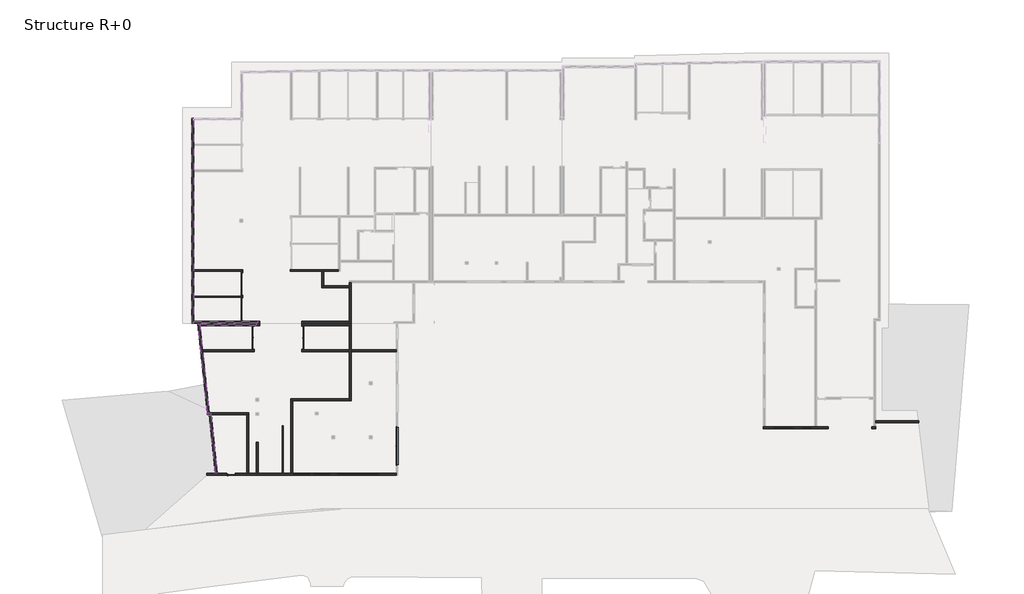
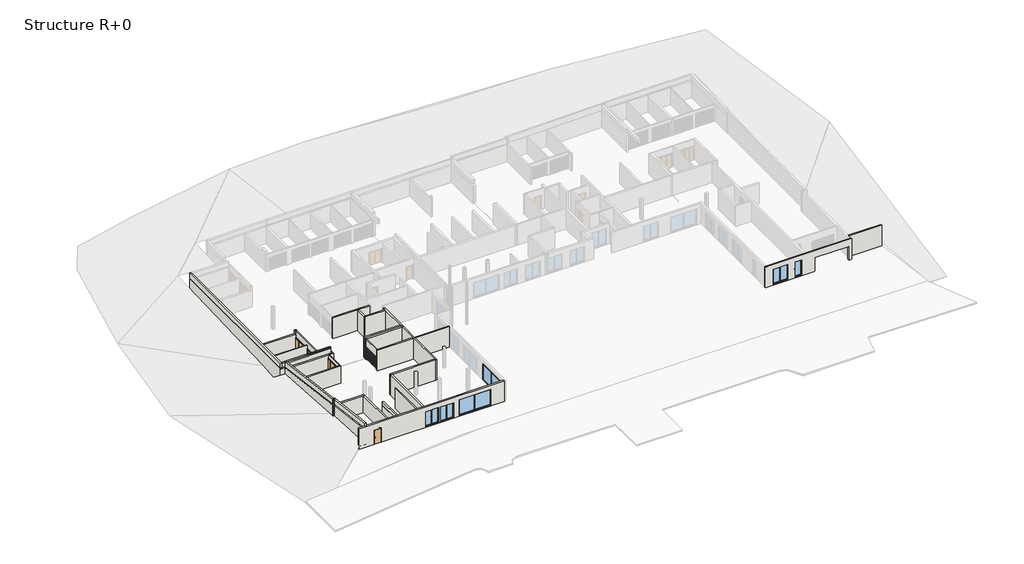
# One storey, part 1 of 5: 34 walls, 6 windows, 5 doors.
"""IFC4 building model written with IfcOpenShell, lengths in millimetres."""

from ifc_helpers import new_model, si_unit, frame, origin, origin_with_axes, place, context, project, spatial, polyline, outline, extrude, faceted_brep, transform, mapped, element, save
from components import door_2_4m_x_2m_ca442cef, hb_simple_930_x_2040_mm_eef520c9, window_0_90m_x_2_25m_cf4a88c4, window_1_80m_x_2_25m_241c93e5, window_2m_x_2_25m_73eb5746, window_4_05m_x_2_35m_2_aa9c86cb, window_4_40m_x_2_35m_32ff79ff

model = new_model("IFC4")

# Units and contexts
model_context = context("Model", 3, world=origin())
ifc_project = project(units=[si_unit("LENGTHUNIT", "METRE", prefix="MILLI")], contexts=[model_context])

# Site, building, storey
site = spatial("IfcSite", under=ifc_project)
building = spatial("IfcBuilding", under=site)
storey = spatial("IfcBuildingStorey", under=building, Name="Structure R+0", Elevation=0.0)

# Doors
placement = place(None, origin())
door_2_4m_x_2m_shape = door_2_4m_x_2m_ca442cef(model_context)
element("IfcDoor", 1, ObjectType="Garage basculante : 2.4m x 2m", at=placement, inside=storey, context=model_context, shape_type="MappedRepresentation", body=[
    mapped(door_2_4m_x_2m_shape, transform((4050.4601588, 14310.0010954, 0.0), x_axis=(0.0, -1.0, 0.0), y_axis=(1.0, 0.0, 0.0), z_axis=(0.0, 0.0, 1.0))),
])
element("IfcDoor", 2, ObjectType="Garage basculante : 2.4m x 2m", at=placement, inside=storey, context=model_context, shape_type="MappedRepresentation", body=[
    mapped(door_2_4m_x_2m_shape, transform((4050.4601588, 11597.9170713, 0.0), x_axis=(0.0, -1.0, 0.0), y_axis=(1.0, 0.0, 0.0), z_axis=(0.0, 0.0, 1.0))),
])
element("IfcDoor", 3, ObjectType="Garage basculante : 2.4m x 2m", at=placement, inside=storey, context=model_context, shape_type="MappedRepresentation", body=[
    mapped(door_2_4m_x_2m_shape, transform((5252.8107901, 8563.0029899, 0.0), x_axis=(0.0, -1.0, 0.0), y_axis=(1.0, 0.0, 0.0), z_axis=(0.0, 0.0, 1.0))),
])
element("IfcDoor", 4, ObjectType="Garage basculante : 2.4m x 2m", at=placement, inside=storey, context=model_context, shape_type="MappedRepresentation", body=[
    mapped(door_2_4m_x_2m_shape, transform((9766.2156554, 8582.0080739, 0.0), x_axis=(0.0, 1.0, 0.0), y_axis=(-1.0, 0.0, 0.0), z_axis=(0.0, 0.0, 1.0))),
])
hb_simple_930_x_2040_mm_shape = hb_simple_930_x_2040_mm_eef520c9(model_context)
element("IfcDoor", 5, ObjectType="HB-Simple : 930 x 2040 mm", at=placement, inside=storey, context=model_context, shape_type="MappedRepresentation", body=[
    mapped(hb_simple_930_x_2040_mm_shape, transform((2482.6863548, -6005.1620119, 0.0), x_axis=(1.0, 0.0, 0.0), y_axis=(0.0, 1.0, 0.0), z_axis=(0.0, 0.0, 1.0))),
])

# Walls
element("IfcWall", 6, ObjectType="Voile BA 20 + etancheite 1 + 2 enduit", at=placement, inside=storey, context=model_context, shape_type="Brep", body=[
    faceted_brep([(174.1388085, 528.6115605, 2710.0), (-806.1527327, 9855.4625547, 2710.0), (-828.2246221, 10065.4625547, 2710.0), (-828.2246221, 10065.4625547, 3330.0), (-828.2246221, 10065.4625547, 3410.0), (174.1388085, 528.6115605, 3410.0), (-37.0179302, 528.6115605, 2710.0), (-37.0179302, 528.6115605, 3410.0), (-1039.3813608, 10065.4625547, 3410.0), (-1039.3813608, 10065.4625547, 2710.0)], [[[0, 1, 2, 3, 4, 5]], [[6, 7, 8, 9]], [[2, 1, 0, 6, 9]], [[5, 4, 8, 7]], [[0, 5, 7, 6]], [[4, 3, 2, 9, 8]]]),
])
element("IfcWall", 7, ObjectType="Voile BA 20 + etancheite 1 + 2 enduit", at=placement, inside=storey, context=model_context, shape_type="Brep", body=[
    faceted_brep([(-14.9460408, 318.6115605, 2710.0), (164.2799074, 318.6115605, 2710.0), (375.4398241, 318.6115605, 2710.0), (375.4398241, 318.6115605, 3410.0), (164.2799074, 318.6115605, 3410.0), (-14.9460408, 318.6115605, 3410.0), (-37.0179302, 528.6115605, 2710.0), (-37.0179302, 528.6115605, 3410.0), (174.1388085, 528.6115605, 3410.0), (353.337552, 528.6115605, 3410.0), (353.337552, 528.6115605, 2710.0), (174.1388085, 528.6115605, 2710.0)], [[[0, 1, 2, 3, 4, 5]], [[6, 7, 8, 9, 10, 11]], [[2, 1, 0, 6, 11, 10]], [[5, 4, 3, 9, 8, 7]], [[0, 5, 7, 6]], [[3, 2, 10, 9]]]),
])
element("IfcWall", 8, ObjectType="Voile BA 20 + etancheite 1 + 2 enduit", at=placement, inside=storey, context=model_context, shape_type="Brep", body=[
    faceted_brep([(-1473.0020232, 10125.465256, 2710.0), (-1473.0020232, 10335.465256, 2710.0), (-1473.0020232, 31818.092309, 2710.0), (-1473.0020232, 32028.092309, 2710.0), (-1473.0020232, 32028.092309, 3410.0), (-1473.0020232, 31818.092309, 3410.0), (-1473.0020232, 10125.465256, 3410.0), (-1473.0020232, 10125.465256, 3330.0), (-1683.0020232, 10125.465256, 2710.0), (-1683.0020232, 10125.465256, 3410.0), (-1683.0020232, 32028.092309, 3410.0), (-1683.0020232, 32028.092309, 2710.0)], [[[0, 1, 2, 3, 4, 5, 6, 7]], [[8, 9, 10, 11]], [[3, 2, 1, 0, 8, 11]], [[6, 5, 4, 10, 9]], [[4, 3, 11, 10]], [[0, 7, 6, 9, 8]]]),
])
element("IfcWall", 9, ObjectType="Voile BA 20 + etancheite 1 + 0 enduit", at=placement, inside=storey, context=model_context, shape_type="Brep", body=[
    faceted_brep([(-806.1527327, 9855.4625547, 2710.0), (5184.2512184, 9855.4625547, 2710.0), (5184.2512184, 9855.4625547, 2720.0), (5184.2512184, 9855.4625547, 3030.0), (5184.2512184, 9855.4625547, 3320.0), (5184.2512184, 9855.4625547, 3330.0), (-806.1527327, 9855.4625547, 3330.0), (-828.2246221, 10065.4625547, 2710.0), (-828.2246221, 10065.4625547, 3330.0), (5184.2512184, 10065.4625547, 3330.0), (5184.2512184, 10065.4625547, 2710.0)], [[[0, 1, 2, 3, 4, 5, 6]], [[7, 8, 9, 10]], [[1, 0, 7, 10]], [[6, 5, 9, 8]], [[5, 4, 3, 2, 1, 10, 9]], [[0, 6, 8, 7]]]),
])
element("IfcWall", 10, ObjectType="Voile BA 20 + etancheite 1 + 0 enduit", at=placement, inside=storey, context=model_context, shape_type="Brep", body=[
    faceted_brep([(5329.893812, 10335.465256, 2710.0), (-1473.0020232, 10335.465256, 2710.0), (-1473.0020232, 10335.465256, 3330.0), (5329.893812, 10335.465256, 3330.0), (5329.893812, 10335.465256, 3320.0), (5329.893812, 10335.465256, 2720.0), (5329.893812, 10125.465256, 2710.0), (5329.893812, 10125.465256, 3330.0), (-1473.0020232, 10125.465256, 3330.0), (-1473.0020232, 10125.465256, 2710.0)], [[[0, 1, 2, 3, 4, 5]], [[6, 7, 8, 9]], [[1, 0, 6, 9]], [[3, 2, 8, 7]], [[0, 5, 4, 3, 7, 6]], [[2, 1, 9, 8]]]),
])
element("IfcWall", 11, ObjectType="Voile BA 20 + etancheite 1 + 2 enduit", at=placement, inside=storey, context=model_context, shape_type="SweptSolid", body=[
    extrude(outline(polyline([(375.4398241, 318.6115605), (1030.4852393, -5905.1620119), (819.3253225, -5905.1620119), (164.2799074, 318.6115605), (375.4398241, 318.6115605)])), frame((0.0, 0.0, 2710.0), z_axis=(0.0, 0.0, 1.0), x_axis=(1.0, 0.0, 0.0)), (0.0, 0.0, 1.0), 700.0),
])
element("IfcWall", 12, ObjectType="Ext. Voile BA 20", at=placement, inside=storey, context=model_context, shape_type="Brep", body=[
    faceted_brep([(-84.079262, -5905.1620119, 0.0), (-84.079262, -5905.1620119, 3030.0), (5184.2512184, -5905.1620119, 3030.0), (5382.6096912, -5905.1620119, 3030.0), (7979.1229661, -5905.1620119, 3030.0), (8079.1229661, -5905.1620119, 3030.0), (8879.0548308, -5905.1620119, 3030.0), (9079.0548308, -5905.1620119, 3030.0), (20115.920738, -5905.1620119, 3030.0), (20115.920738, -5905.1620119, 0.0), (9079.0548308, -5905.1620119, 0.0), (8879.0548308, -5905.1620119, 0.0), (8079.1229661, -5905.1620119, 0.0), (7979.1229661, -5905.1620119, 0.0), (5382.6096912, -5905.1620119, 0.0), (5182.6096912, -5905.1620119, 0.0), (4382.6863548, -5905.1620119, 0.0), (4182.6863548, -5905.1620119, 0.0), (2929.6863548, -5905.1620119, 0.0), (2929.6863548, -5905.1620119, 2022.0), (2035.6863548, -5905.1620119, 2022.0), (2035.6863548, -5905.1620119, 0.0), (1020.3287499, -5905.1620119, 0.0), (819.227094, -5905.1620119, 0.0), (9109.0548308, -5905.1620119, 35.0), (11009.0548308, -5905.1620119, 35.0), (11009.0548308, -5905.1620119, 2335.0), (9109.0548308, -5905.1620119, 2335.0), (11209.0548308, -5905.1620119, 35.0), (13109.0548308, -5905.1620119, 35.0), (13109.0548308, -5905.1620119, 2335.0), (11209.0548308, -5905.1620119, 2335.0), (13809.0548308, -5905.1620119, 35.0), (18309.0548308, -5905.1620119, 35.0), (18309.0548308, -5905.1620119, 2435.0), (13809.0548308, -5905.1620119, 2435.0), (-84.079262, -6105.1620119, 3030.0), (-84.079262, -6105.1620119, 0.0), (2016.1863548, -6105.1620119, 0.0), (2016.1863548, -6105.1620119, 2041.5), (2949.1863548, -6105.1620119, 2041.5), (2949.1863548, -6105.1620119, 0.0), (20115.920738, -6105.1620119, 0.0), (20115.920738, -6105.1620119, 3030.0), (10959.0548308, -6105.1620119, 2285.0), (10959.0548308, -6105.1620119, 22.3874918), (9159.0548308, -6105.1620119, 22.3874918), (9159.0548308, -6105.1620119, 2285.0), (13059.0548308, -6105.1620119, 2285.0), (13059.0548308, -6105.1620119, 22.3874918), (11259.0548308, -6105.1620119, 22.3874918), (11259.0548308, -6105.1620119, 2285.0), (18259.0548308, -6105.1620119, 2385.0), (18259.0548308, -6105.1620119, 22.3874918), (13859.0548308, -6105.1620119, 22.3874918), (13859.0548308, -6105.1620119, 2385.0), (2035.6863548, -5925.1620119, 0.0), (1973.1863548, -5925.1620119, 0.0), (1987.1863548, -5939.1620119, 0.0), (1999.1863548, -5927.1620119, 0.0), (2016.1863548, -5927.1620119, 0.0), (2016.1863548, -5962.1620119, 0.0), (2034.1863548, -5962.1620119, 0.0), (2034.1863548, -6083.1620119, 0.0), (2016.1863548, -6083.1620119, 0.0), (2949.1863548, -6083.1620119, 0.0), (2931.1863548, -6083.1620119, 0.0), (2931.1863548, -5962.1620119, 0.0), (2949.1863548, -5962.1620119, 0.0), (2949.1863548, -5927.1620119, 0.0), (2966.1863548, -5927.1620119, 0.0), (2978.1863548, -5939.1620119, 0.0), (2992.1863548, -5925.1620119, 0.0), (2929.6863548, -5925.1620119, 0.0), (2035.6863548, -5925.1620119, 2022.0), (2929.6863548, -5925.1620119, 2022.0), (2978.1863548, -5939.1620119, 2070.5), (2992.1863548, -5925.1620119, 2084.5), (2966.1863548, -5927.1620119, 2058.5), (2949.1863548, -5927.1620119, 2041.5), (2016.1863548, -5927.1620119, 2041.5), (1999.1863548, -5927.1620119, 2058.5), (2949.1863548, -5962.1620119, 2041.5), (2931.1863548, -5962.1620119, 2023.5), (2034.1863548, -5962.1620119, 2023.5), (2016.1863548, -5962.1620119, 2041.5), (2931.1863548, -6083.1620119, 2023.5), (2949.1863548, -6083.1620119, 2041.5), (2016.1863548, -6083.1620119, 2041.5), (2034.1863548, -6083.1620119, 2023.5), (1973.1863548, -5925.1620119, 2084.5), (1987.1863548, -5939.1620119, 2070.5), (10959.0548308, -5985.1620119, 35.0), (10959.0548308, -6005.1620119, 2285.0), (10959.0548308, -6005.1620119, 35.0), (9159.0548308, -5985.1620119, 35.0), (9159.0548308, -6005.1620119, 35.0), (9159.0548308, -6005.1620119, 2285.0), (10969.0548308, -6005.1620119, 35.0), (10969.0548308, -5955.1620119, 35.0), (11009.0548308, -5955.1620119, 35.0), (9109.0548308, -5955.1620119, 35.0), (9149.0548308, -5955.1620119, 35.0), (9149.0548308, -6005.1620119, 35.0), (11009.0548308, -5955.1620119, 2335.0), (10969.0548308, -5955.1620119, 2295.0), (9149.0548308, -5955.1620119, 2295.0), (9109.0548308, -5955.1620119, 2335.0), (10969.0548308, -6005.1620119, 2295.0), (9149.0548308, -6005.1620119, 2295.0), (13059.0548308, -5985.1620119, 35.0), (13059.0548308, -6005.1620119, 2285.0), (13059.0548308, -6005.1620119, 35.0), (11259.0548308, -5985.1620119, 35.0), (11259.0548308, -6005.1620119, 35.0), (11259.0548308, -6005.1620119, 2285.0), (13069.0548308, -6005.1620119, 35.0), (13069.0548308, -5955.1620119, 35.0), (13109.0548308, -5955.1620119, 35.0), (11209.0548308, -5955.1620119, 35.0), (11249.0548308, -5955.1620119, 35.0), (11249.0548308, -6005.1620119, 35.0), (13109.0548308, -5955.1620119, 2335.0), (13069.0548308, -5955.1620119, 2295.0), (11249.0548308, -5955.1620119, 2295.0), (11209.0548308, -5955.1620119, 2335.0), (13069.0548308, -6005.1620119, 2295.0), (11249.0548308, -6005.1620119, 2295.0), (18259.0548308, -5985.1620119, 35.0), (18259.0548308, -6005.1620119, 2385.0), (18259.0548308, -6005.1620119, 35.0), (13859.0548308, -5985.1620119, 35.0), (13859.0548308, -6005.1620119, 35.0), (13859.0548308, -6005.1620119, 2385.0), (18269.0548308, -6005.1620119, 35.0), (18269.0548308, -5955.1620119, 35.0), (18309.0548308, -5955.1620119, 35.0), (13809.0548308, -5955.1620119, 35.0), (13849.0548308, -5955.1620119, 35.0), (13849.0548308, -6005.1620119, 35.0), (18309.0548308, -5955.1620119, 2435.0), (18269.0548308, -5955.1620119, 2395.0), (13849.0548308, -5955.1620119, 2395.0), (13809.0548308, -5955.1620119, 2435.0), (18269.0548308, -6005.1620119, 2395.0), (13849.0548308, -6005.1620119, 2395.0)], [[[0, 1, 2, 3, 4, 5, 6, 7, 8, 9, 10, 11, 12, 13, 14, 15, 16, 17, 18, 19, 20, 21, 22, 23], [24, 25, 26, 27], [28, 29, 30, 31], [32, 33, 34, 35]], [[36, 37, 38, 39, 40, 41, 42, 43], [44, 45, 46, 47], [48, 49, 50, 51], [52, 53, 54, 55]], [[37, 0, 23, 22, 21, 56, 57, 58, 59, 60, 61, 62, 63, 64, 38]], [[9, 42, 41, 65, 66, 67, 68, 69, 70, 71, 72, 73, 18, 17, 16, 15, 14, 13, 12, 11, 10]], [[1, 0, 37, 36]], [[8, 7, 6, 5, 4, 3, 2, 1, 36, 43]], [[9, 8, 43, 42]], [[74, 56, 21, 20]], [[75, 74, 20, 19]], [[73, 75, 19, 18]], [[71, 76, 77, 72]], [[76, 71, 70, 78]], [[78, 70, 69, 79, 80, 60, 59, 81]], [[79, 69, 68, 82]], [[82, 68, 67, 83, 84, 62, 61, 85]], [[83, 67, 66, 86]], [[86, 66, 65, 87, 88, 64, 63, 89]], [[87, 65, 41, 40]], [[56, 74, 75, 73, 72, 77, 90, 57]], [[77, 76, 91, 90]], [[76, 78, 81, 91]], [[80, 79, 82, 85]], [[84, 83, 86, 89]], [[88, 87, 40, 39]], [[57, 90, 91, 58]], [[81, 59, 58, 91]], [[60, 80, 85, 61]], [[62, 84, 89, 63]], [[64, 88, 39, 38]], [[92, 45, 44, 93, 94]], [[46, 95, 96, 97, 47]], [[92, 95, 46, 45]], [[44, 47, 97, 93]], [[95, 92, 94, 98, 99, 100, 25, 24, 101, 102, 103, 96]], [[25, 100, 104, 26]], [[100, 99, 105, 106, 102, 101, 107, 104]], [[99, 98, 108, 105]], [[98, 94, 93, 97, 96, 103, 109, 108]], [[26, 104, 107, 27]], [[106, 105, 108, 109]], [[107, 101, 24, 27]], [[102, 106, 109, 103]], [[110, 49, 48, 111, 112]], [[50, 113, 114, 115, 51]], [[110, 113, 50, 49]], [[48, 51, 115, 111]], [[113, 110, 112, 116, 117, 118, 29, 28, 119, 120, 121, 114]], [[29, 118, 122, 30]], [[118, 117, 123, 124, 120, 119, 125, 122]], [[117, 116, 126, 123]], [[116, 112, 111, 115, 114, 121, 127, 126]], [[30, 122, 125, 31]], [[124, 123, 126, 127]], [[125, 119, 28, 31]], [[120, 124, 127, 121]], [[128, 53, 52, 129, 130]], [[54, 131, 132, 133, 55]], [[128, 131, 54, 53]], [[52, 55, 133, 129]], [[131, 128, 130, 134, 135, 136, 33, 32, 137, 138, 139, 132]], [[33, 136, 140, 34]], [[136, 135, 141, 142, 138, 137, 143, 140]], [[135, 134, 144, 141]], [[134, 130, 129, 133, 132, 139, 145, 144]], [[34, 140, 143, 35]], [[142, 141, 144, 145]], [[143, 137, 32, 35]], [[138, 142, 145, 139]]]),
])
element("IfcWall", 13, ObjectType="Ext. Voile BA 20", at=placement, inside=storey, context=model_context, shape_type="SweptSolid", body=[
    extrude(outline(polyline([(363.8161837, 341.1378118), (1020.3287499, -5905.1620119), (819.227094, -5905.1620119), (162.7145278, 341.1378118), (363.8161837, 341.1378118)])), origin_with_axes(), (0.0, 0.0, 1.0), 2510.0),
])
element("IfcWall", 14, ObjectType="Ext. Voile BA 20", at=placement, inside=storey, context=model_context, shape_type="Brep", body=[
    faceted_brep([(162.7671637, 541.1378118, 0.0), (-523.2918803, 7068.5535934, 0.0), (-544.3127274, 7268.5535934, 0.0), (-817.2588578, 9865.4625547, 0.0), (-838.2797049, 10065.4625547, 0.0), (-838.2797049, 10065.4625547, 2510.0), (-817.2588578, 9865.4625547, 2510.0), (-544.3127274, 7268.5535934, 2510.0), (-523.2918803, 7068.5535934, 2510.0), (162.7671637, 541.1378118, 2510.0), (-38.3344923, 541.1378118, 0.0), (-38.3344923, 541.1378118, 2510.0), (-1039.3813608, 10065.4625547, 2510.0), (-1039.3813608, 10065.4625547, 0.0)], [[[0, 1, 2, 3, 4, 5, 6, 7, 8, 9]], [[10, 11, 12, 13]], [[0, 9, 11, 10]], [[5, 4, 13, 12]], [[4, 3, 2, 1, 0, 10, 13]], [[9, 8, 7, 6, 5, 12, 11]]]),
])
element("IfcWall", 15, ObjectType="Ext. Voile BA 20", at=placement, inside=storey, context=model_context, shape_type="Brep", body=[
    faceted_brep([(-1483.0020232, 10325.4652425, 0.0), (-1483.0020232, 12900.3689001, 0.0), (-1483.0020232, 13000.3689001, 0.0), (-1483.0020232, 15649.6332908, 0.0), (-1483.0020232, 15849.6332908, 0.0), (-1483.0020232, 26308.0923089, 0.0), (-1483.0020232, 26508.0923089, 0.0), (-1483.0020232, 29128.092309, 0.0), (-1483.0020232, 29228.092309, 0.0), (-1483.0020232, 31828.092309, 0.0), (-1483.0020232, 32028.092309, 0.0), (-1483.0020232, 32028.092309, 2510.0), (-1483.0020232, 31828.092309, 2510.0), (-1483.0020232, 29228.092309, 2510.0), (-1483.0020232, 29128.092309, 2510.0), (-1483.0020232, 26508.0923089, 2510.0), (-1483.0020232, 26308.0923089, 2510.0), (-1483.0020232, 15849.6332908, 2510.0), (-1483.0020232, 15649.6332908, 2510.0), (-1483.0020232, 13000.3689001, 2510.0), (-1483.0020232, 12900.3689001, 2510.0), (-1483.0020232, 10325.4652425, 2510.0), (-1683.0020232, 10325.4652425, 0.0), (-1683.0020232, 10325.4652425, 2510.0), (-1683.0020232, 32028.092309, 2510.0), (-1683.0020232, 32028.092309, 0.0)], [[[0, 1, 2, 3, 4, 5, 6, 7, 8, 9, 10, 11, 12, 13, 14, 15, 16, 17, 18, 19, 20, 21]], [[22, 23, 24, 25]], [[0, 21, 23, 22]], [[11, 10, 25, 24]], [[10, 9, 8, 7, 6, 5, 4, 3, 2, 1, 0, 22, 25]], [[21, 20, 19, 18, 17, 16, 15, 14, 13, 12, 11, 24, 23]]]),
])
element("IfcWall", 16, ObjectType="Ext. Voile BA 20", at=placement, inside=storey, context=model_context, shape_type="Brep", body=[
    faceted_brep([(15109.3203129, 14117.7151113, 0.0), (12409.3203129, 14117.7151113, 0.0), (12209.3203129, 14117.7151113, 0.0), (12209.3203129, 14117.7151113, 3030.0), (12409.3203129, 14117.7151113, 3030.0), (15109.3203129, 14117.7151113, 3030.0), (15109.3203129, 13917.7151113, 0.0), (15109.3203129, 13917.7151113, 3030.0), (12209.3203129, 13917.7151113, 3030.0), (12209.3203129, 13917.7151113, 0.0)], [[[0, 1, 2, 3, 4, 5]], [[6, 7, 8, 9]], [[2, 1, 0, 6, 9]], [[0, 5, 7, 6]], [[3, 2, 9, 8]], [[5, 4, 3, 8, 7]]]),
])
element("IfcWall", 17, ObjectType="Ext. Voile BA 20", at=placement, inside=storey, context=model_context, shape_type="SweptSolid", body=[
    extrude(outline(polyline([(12409.3203129, 15649.6332906), (12409.3203129, 14117.7151113), (12209.3203129, 14117.7151113), (12209.3203129, 15649.6332906), (12409.3203129, 15649.6332906)])), origin_with_axes(), (0.0, 0.0, 1.0), 3030.0),
])
element("IfcWall", 18, ObjectType="Ext. Voile BA 20", at=placement, inside=storey, context=model_context, shape_type="Brep", body=[
    faceted_brep([(13964.9548931, 15849.6332906, 0.0), (8901.4301413, 15849.6332906, 0.0), (8801.4301413, 15849.6332906, 0.0), (8801.4301413, 15849.6332906, 3030.0), (8901.4301413, 15849.6332906, 3030.0), (13964.9548931, 15849.6332906, 3030.0), (13964.9548931, 15649.6332906, 0.0), (13964.9548931, 15649.6332906, 3030.0), (12409.3203129, 15649.6332906, 3030.0), (12209.3203129, 15649.6332906, 3030.0), (8801.4301413, 15649.6332906, 3030.0), (8801.4301413, 15649.6332906, 0.0), (12209.3203129, 15649.6332906, 0.0), (12409.3203129, 15649.6332906, 0.0)], [[[0, 1, 2, 3, 4, 5]], [[6, 7, 8, 9, 10, 11, 12, 13]], [[2, 1, 0, 6, 13, 12, 11]], [[0, 5, 7, 6]], [[3, 2, 11, 10]], [[5, 4, 3, 10, 9, 8, 7]]]),
])
element("IfcWall", 19, ObjectType="Ext. Voile BA 20", at=placement, inside=storey, context=model_context, shape_type="Brep", body=[
    faceted_brep([(15109.3203129, 2054.6479064, 0.0), (8879.0548308, 2054.6479064, 0.0), (8879.0548308, 2054.6479064, 3030.0), (15109.3203129, 2054.6479064, 3030.0), (15109.3203129, 1854.6479064, 0.0), (15109.3203129, 1854.6479064, 3030.0), (9079.0548308, 1854.6479064, 3030.0), (8879.0548308, 1854.6479064, 3030.0), (8879.0548308, 1854.6479064, 0.0), (9079.0548308, 1854.6479064, 0.0)], [[[0, 1, 2, 3]], [[4, 5, 6, 7, 8, 9]], [[1, 0, 4, 9, 8]], [[0, 3, 5, 4]], [[2, 1, 8, 7]], [[3, 2, 7, 6, 5]]]),
])
element("IfcWall", 20, ObjectType="Ext. Voile BA 20", at=placement, inside=storey, context=model_context, shape_type="SweptSolid", body=[
    extrude(outline(polyline([(8879.0548308, -5905.1620119), (8879.0548308, 1854.6479064), (9079.0548308, 1854.6479064), (9079.0548308, -5905.1620119), (8879.0548308, -5905.1620119)])), origin_with_axes(), (0.0, 0.0, 1.0), 3030.0),
])
element("IfcWall", 21, ObjectType="Ext. Voile BA 20", at=placement, inside=storey, context=model_context, shape_type="SweptSolid", body=[
    extrude(outline(polyline([(0.0, 5382.6096912), (3030.0, 5382.6096912), (3030.0, 5184.2512184), (2510.0, 5184.2512184), (2510.0, 5182.6096912), (0.0, 5182.6096912), (0.0, 5382.6096912)])), frame((0.0, -5905.1620119, 0.0), z_axis=(0.0, 1.0, 0.0), x_axis=(0.0, 0.0, 1.0)), (0.0, 0.0, 1.0), 3319.5138564),
])
element("IfcWall", 22, ObjectType="Ext. Voile BA 20 + 2 enduit", at=placement, inside=storey, context=model_context, shape_type="Brep", body=[
    faceted_brep([(71327.0236897, -947.3118451, 0.0), (71127.0236897, -947.3118451, 0.0), (70909.617162, -947.3118451, 0.0), (70909.617162, -947.3118451, 2060.0), (66235.3680103, -947.3118451, 2060.0), (66235.3680103, -947.3118451, 0.0), (65012.3933514, -947.3118451, 0.0), (64812.3933514, -947.3118451, 0.0), (59542.9059955, -947.3118451, 0.0), (59342.9059955, -947.3118451, 0.0), (59342.9059955, -947.3118451, 3030.0), (59353.9486146, -947.3118451, 3030.0), (59542.9059955, -947.3118451, 3030.0), (64812.3933514, -947.3118451, 3030.0), (65012.3933514, -947.3118451, 3030.0), (71127.0236897, -947.3118451, 3030.0), (71317.0236897, -947.3118451, 3030.0), (71327.0236897, -947.3118451, 3030.0), (60406.1712689, -947.3118451, 70.0), (62506.1712689, -947.3118451, 70.0), (62506.1712689, -947.3118451, 2370.0), (60406.1712689, -947.3118451, 2370.0), (63424.5225082, -947.3118451, 70.0), (64424.5225082, -947.3118451, 70.0), (64424.5225082, -947.3118451, 2370.0), (63424.5225082, -947.3118451, 2370.0), (71327.0236897, -1147.3118451, 0.0), (71327.0236897, -1147.3118451, 3030.0), (71317.0236897, -1147.3118451, 3030.0), (59353.9486146, -1147.3118451, 3030.0), (59342.9059955, -1147.3118451, 3030.0), (59342.9059955, -1147.3118451, 0.0), (66235.3680103, -1147.3118451, 0.0), (66235.3680103, -1147.3118451, 2060.0), (70909.617162, -1147.3118451, 2060.0), (70909.617162, -1147.3118451, 0.0), (60456.1712689, -1147.3118451, 57.3874918), (60456.1712689, -1147.3118451, 2320.0), (62456.1712689, -1147.3118451, 2320.0), (62456.1712689, -1147.3118451, 57.3874918), (63474.5225082, -1147.3118451, 57.3874918), (63474.5225082, -1147.3118451, 2320.0), (64374.5225082, -1147.3118451, 2320.0), (64374.5225082, -1147.3118451, 57.3874918), (71327.0236897, -1137.3140034, 3030.0), (59342.9059955, -1137.3140034, 3030.0), (60456.1712689, -1027.3118451, 70.0), (60456.1712689, -1047.3118451, 70.0), (60456.1712689, -1047.3118451, 2320.0), (62456.1712689, -1047.3118451, 2320.0), (62456.1712689, -1047.3118451, 70.0), (62456.1712689, -1027.3118451, 70.0), (62466.1712689, -1047.3118451, 70.0), (62466.1712689, -997.3118451, 70.0), (62506.1712689, -997.3118451, 70.0), (60406.1712689, -997.3118451, 70.0), (60446.1712689, -997.3118451, 70.0), (60446.1712689, -1047.3118451, 70.0), (60406.1712689, -997.3118451, 2370.0), (62506.1712689, -997.3118451, 2370.0), (62466.1712689, -997.3118451, 2330.0), (60446.1712689, -997.3118451, 2330.0), (60446.1712689, -1047.3118451, 2330.0), (62466.1712689, -1047.3118451, 2330.0), (63474.5225082, -1027.3118451, 70.0), (63474.5225082, -1047.3118451, 70.0), (63474.5225082, -1047.3118451, 2320.0), (64374.5225082, -1047.3118451, 2320.0), (64374.5225082, -1047.3118451, 70.0), (64374.5225082, -1027.3118451, 70.0), (64384.5225082, -1047.3118451, 70.0), (64384.5225082, -997.3118451, 70.0), (64424.5225082, -997.3118451, 70.0), (63424.5225082, -997.3118451, 70.0), (63464.5225082, -997.3118451, 70.0), (63464.5225082, -1047.3118451, 70.0), (63424.5225082, -997.3118451, 2370.0), (64424.5225082, -997.3118451, 2370.0), (64384.5225082, -997.3118451, 2330.0), (63464.5225082, -997.3118451, 2330.0), (63464.5225082, -1047.3118451, 2330.0), (64384.5225082, -1047.3118451, 2330.0), (71317.0236897, -1137.3140034, 3030.0), (59353.9486146, -1137.3140034, 3030.0)], [[[0, 1, 2, 3, 4, 5, 6, 7, 8, 9, 10, 11, 12, 13, 14, 15, 16, 17], [18, 19, 20, 21], [22, 23, 24, 25]], [[26, 27, 28, 29, 30, 31, 32, 33, 34, 35], [36, 37, 38, 39], [40, 41, 42, 43]], [[0, 17, 44, 27, 26]], [[10, 9, 31, 30, 45]], [[9, 8, 7, 6, 5, 32, 31]], [[2, 1, 0, 26, 35]], [[3, 2, 35, 34]], [[4, 3, 34, 33]], [[5, 4, 33, 32]], [[46, 47, 48, 37, 36]], [[39, 38, 49, 50, 51]], [[46, 36, 39, 51]], [[37, 48, 49, 38]], [[51, 50, 52, 53, 54, 19, 18, 55, 56, 57, 47, 46]], [[18, 21, 58, 55]], [[55, 58, 59, 54, 53, 60, 61, 56]], [[56, 61, 62, 57]], [[57, 62, 63, 52, 50, 49, 48, 47]], [[21, 20, 59, 58]], [[60, 63, 62, 61]], [[59, 20, 19, 54]], [[53, 52, 63, 60]], [[64, 65, 66, 41, 40]], [[43, 42, 67, 68, 69]], [[64, 40, 43, 69]], [[41, 66, 67, 42]], [[69, 68, 70, 71, 72, 23, 22, 73, 74, 75, 65, 64]], [[22, 25, 76, 73]], [[73, 76, 77, 72, 71, 78, 79, 74]], [[74, 79, 80, 75]], [[75, 80, 81, 70, 68, 67, 66, 65]], [[25, 24, 77, 76]], [[78, 81, 80, 79]], [[77, 24, 23, 72]], [[71, 70, 81, 78]], [[17, 16, 82, 44]], [[82, 28, 27, 44]], [[11, 10, 45, 83]], [[29, 28, 82, 83]], [[45, 30, 29, 83]], [[16, 15, 14, 13, 12, 11, 83, 82]]]),
])
element("IfcWall", 23, ObjectType="Ext. Voile BA 20 + 2 enduit", at=placement, inside=storey, context=model_context, shape_type="SweptSolid", body=[
    extrude(outline(polyline([(75901.2824686, -508.991972), (71327.0236897, -508.991972), (71327.0236897, -308.991972), (75901.2824686, -308.991972), (75901.2824686, -508.991972)])), origin_with_axes(), (0.0, 0.0, 1.0), 3030.0),
])
element("IfcWall", 24, ObjectType="Int. Parpaing 100 mm", at=placement, inside=storey, context=model_context, shape_type="SweptSolid", body=[
    extrude(outline(polyline([(0.0, -1483.0020232), (0.0, 3656.907833), (2510.0, 3656.907833), (2510.0, 3536.9058449), (2510.0, -1483.0020232), (0.0, -1483.0020232)])), frame((0.0, 12900.3689001, 0.0), z_axis=(0.0, 1.0, 0.0), x_axis=(0.0, 0.0, 1.0)), (0.0, 0.0, 1.0), 100.0),
])
element("IfcWall", 25, ObjectType="Int. Parpaing 100 mm", at=placement, inside=storey, context=model_context, shape_type="Brep", body=[
    faceted_brep([(3656.907833, 10335.465256, 3000.0), (3656.907833, 15649.6332908, 3000.0), (3656.907833, 15649.6332908, 0.0), (3656.907833, 15540.0010954, 0.0), (3656.907833, 15540.0010954, 2015.0), (3656.907833, 13110.0010954, 2015.0), (3656.907833, 13110.0010954, 0.0), (3656.907833, 13000.3689001, 0.0), (3656.907833, 12900.3689001, 0.0), (3656.907833, 12827.9170713, 0.0), (3656.907833, 12827.9170713, 2015.0), (3656.907833, 10397.9170713, 2015.0), (3656.907833, 10397.9170713, 0.0), (3656.907833, 10325.4652425, 0.0), (3656.907833, 10325.4652425, 2710.0), (3656.907833, 10335.465256, 2710.0), (3756.907833, 15649.6332908, 3000.0), (3756.907833, 10335.465256, 3000.0), (3756.907833, 10335.465256, 2710.0), (3756.907833, 10325.4652425, 2710.0), (3756.907833, 10325.4652425, 0.0), (3756.907833, 10397.9170713, 0.0), (3756.907833, 10397.9170713, 2015.0), (3756.907833, 12827.9170713, 2015.0), (3756.907833, 12827.9170713, 0.0), (3756.907833, 13110.0010954, 0.0), (3756.907833, 13110.0010954, 2015.0), (3756.907833, 15540.0010954, 2015.0), (3756.907833, 15540.0010954, 0.0), (3756.907833, 15649.6332908, 0.0)], [[[0, 1, 2, 3, 4, 5, 6, 7, 8, 9, 10, 11, 12, 13, 14, 15]], [[16, 17, 18, 19, 20, 21, 22, 23, 24, 25, 26, 27, 28, 29]], [[2, 29, 28, 3]], [[20, 13, 12, 21]], [[6, 25, 24, 9, 8, 7]], [[1, 0, 17, 16]], [[2, 1, 16, 29]], [[26, 5, 4, 27]], [[27, 4, 3, 28]], [[5, 26, 25, 6]], [[22, 11, 10, 23]], [[23, 10, 9, 24]], [[11, 22, 21, 12]], [[15, 14, 19, 18]], [[13, 20, 19, 14]], [[17, 0, 15, 18]]]),
])
element("IfcWall", 26, ObjectType="Int. Parpaing 100 mm", at=placement, inside=storey, context=model_context, shape_type="SweptSolid", body=[
    extrude(outline(polyline([(7268.5535934, 0.0), (7268.5535934, 2510.0), (9865.4625547, 2510.0), (9865.4625547, 0.0), (9793.0029899, 0.0), (9793.0029899, 2015.0), (7363.0029899, 2015.0), (7363.0029899, 0.0), (7268.5535934, 0.0)])), frame((4859.2584643, 0.0, 0.0), z_axis=(1.0, 0.0, 0.0), x_axis=(0.0, 1.0, 0.0)), (0.0, 0.0, 1.0), 100.0),
])
element("IfcWall", 27, ObjectType="Int. Parpaing 100 mm", at=placement, inside=storey, context=model_context, shape_type="SweptSolid", body=[
    extrude(outline(polyline([(7268.553593, 3030.0), (9865.4625548, 3030.0), (9865.4625548, 0.0), (9782.0080739, 0.0), (9782.0080739, 2015.0), (7352.0080739, 2015.0), (7352.0080739, 0.0), (7268.553593, 0.0), (7268.553593, 3030.0)])), frame((10059.7679812, 0.0, 0.0), z_axis=(1.0, 0.0, 0.0), x_axis=(0.0, 1.0, 0.0)), (0.0, 0.0, 1.0), 100.0),
])
element("IfcWall", 28, ObjectType="Int. Parpaing 100 mm", at=placement, inside=storey, context=model_context, shape_type="SweptSolid", body=[
    extrude(outline(polyline([(7979.1229661, -5905.1620119), (7979.1229661, -824.0586501), (8079.1229661, -824.0586501), (8079.1229661, -5905.1620119), (7979.1229661, -5905.1620119)])), origin_with_axes(), (0.0, 0.0, 1.0), 3030.0),
])
element("IfcWall", 29, ObjectType="Voile BA 20", at=placement, inside=storey, context=model_context, shape_type="Brep", body=[
    faceted_brep([(4382.6863548, 541.1378118, 0.0), (162.7671637, 541.1378118, 0.0), (-38.3344923, 541.1378118, 0.0), (-38.3344923, 541.1378118, 2510.0), (162.7671637, 541.1378118, 2510.0), (4382.6863548, 541.1378118, 2510.0), (4382.6863548, 341.1378118, 0.0), (4382.6863548, 341.1378118, 2510.0), (4182.6863548, 341.1378118, 2510.0), (363.8161837, 341.1378118, 2510.0), (162.7145278, 341.1378118, 2510.0), (-17.3136452, 341.1378118, 2510.0), (-17.3136452, 341.1378118, 0.0), (162.7145278, 341.1378118, 0.0), (363.8161837, 341.1378118, 0.0), (4182.6863548, 341.1378118, 0.0)], [[[0, 1, 2, 3, 4, 5]], [[6, 7, 8, 9, 10, 11, 12, 13, 14, 15]], [[3, 2, 12, 11]], [[0, 5, 7, 6]], [[2, 1, 0, 6, 15, 14, 13, 12]], [[5, 4, 3, 11, 10, 9, 8, 7]]]),
])
element("IfcWall", 30, ObjectType="Voile BA 20", at=placement, inside=storey, context=model_context, shape_type="Brep", body=[
    faceted_brep([(-817.2588578, 9865.4625547, 0.0), (4859.2584643, 9865.4625547, 0.0), (4959.2584643, 9865.4625547, 0.0), (5558.3074148, 9865.4625547, 0.0), (5558.3074148, 9865.4625547, 2510.0), (4959.2584643, 9865.4625547, 2510.0), (4859.2584643, 9865.4625547, 2510.0), (-817.2588578, 9865.4625547, 2510.0), (-838.2797049, 10065.4625547, 0.0), (-838.2797049, 10065.4625547, 2510.0), (5558.3074148, 10065.4625547, 2510.0), (5558.3074148, 10065.4625547, 0.0)], [[[0, 1, 2, 3, 4, 5, 6, 7]], [[8, 9, 10, 11]], [[0, 7, 9, 8]], [[3, 2, 1, 0, 8, 11]], [[4, 3, 11, 10]], [[7, 6, 5, 4, 10, 9]]]),
])
element("IfcWall", 31, ObjectType="Voile BA 20", at=placement, inside=storey, context=model_context, shape_type="Brep", body=[
    faceted_brep([(5558.3074148, 10325.4652425, 0.0), (3756.907833, 10325.4652425, 0.0), (3656.907833, 10325.4652425, 0.0), (-1483.0020232, 10325.4652425, 0.0), (-1683.0020232, 10325.4652425, 0.0), (-1683.0020232, 10325.4652425, 2510.0), (-1483.0020232, 10325.4652425, 2510.0), (5558.3074148, 10325.4652425, 2510.0), (5558.3074148, 10125.4652425, 0.0), (5558.3074148, 10125.4652425, 2510.0), (-1683.0020232, 10125.4652425, 2510.0), (-1683.0020232, 10125.4652425, 0.0)], [[[0, 1, 2, 3, 4, 5, 6, 7]], [[8, 9, 10, 11]], [[5, 4, 11, 10]], [[4, 3, 2, 1, 0, 8, 11]], [[7, 6, 5, 10, 9]], [[0, 7, 9, 8]]]),
])
element("IfcWall", 32, ObjectType="Voile BA 20", at=placement, inside=storey, context=model_context, shape_type="Brep", body=[
    faceted_brep([(15109.3203129, 14457.8960617, 0.0), (15109.3203129, 14117.7151113, 0.0), (15109.3203129, 13917.7151113, 0.0), (15109.3203129, 10325.4117008, 0.0), (15109.3203129, 10125.4117008, 0.0), (15109.3203129, 10125.4117008, 3030.0), (15109.3203129, 10325.4117008, 3030.0), (15109.3203129, 13917.7151113, 3030.0), (15109.3203129, 14117.7151113, 3030.0), (15109.3203129, 14457.8960617, 3030.0), (15309.3203129, 14457.8960617, 0.0), (15309.3203129, 14457.8960617, 3030.0), (15309.3203129, 10125.4117008, 3030.0), (15309.3203129, 10125.4117008, 0.0)], [[[0, 1, 2, 3, 4, 5, 6, 7, 8, 9]], [[10, 11, 12, 13]], [[4, 3, 2, 1, 0, 10, 13]], [[0, 9, 11, 10]], [[5, 4, 13, 12]], [[9, 8, 7, 6, 5, 12, 11]]]),
])
element("IfcWall", 33, ObjectType="Voile BA 20", at=placement, inside=storey, context=model_context, shape_type="SweptSolid", body=[
    extrude(outline(polyline([(10059.7679783, 10325.4117008), (15109.3203129, 10325.4117008), (15109.3203129, 10125.4117008), (10059.7679783, 10125.4117008), (10059.7679783, 10325.4117008)])), origin_with_axes(), (0.0, 0.0, 1.0), 3030.0),
])
element("IfcWall", 34, ObjectType="Voile BA 20", at=placement, inside=storey, context=model_context, shape_type="Brep", body=[
    faceted_brep([(10059.7679812, 9865.4625548, 0.0), (10159.7679812, 9865.4625548, 0.0), (15109.3203129, 9865.4625548, 0.0), (15309.3203129, 9865.4625548, 0.0), (15309.3203129, 9865.4625548, 3030.0), (15109.3203129, 9865.4625548, 3030.0), (10159.7679812, 9865.4625548, 3030.0), (10059.7679812, 9865.4625548, 3030.0), (10059.7679812, 10065.4625548, 0.0), (10059.7679812, 10065.4625548, 3030.0), (15309.3203129, 10065.4625548, 3030.0), (15309.3203129, 10065.4625548, 0.0)], [[[0, 1, 2, 3, 4, 5, 6, 7]], [[8, 9, 10, 11]], [[3, 2, 1, 0, 8, 11]], [[4, 3, 11, 10]], [[0, 7, 9, 8]], [[7, 6, 5, 4, 10, 9]]]),
])
element("IfcWall", 35, ObjectType="Voile BA 20", at=placement, inside=storey, context=model_context, shape_type="Brep", body=[
    faceted_brep([(15109.3203129, 9865.4625548, 0.0), (15109.3203129, 7268.553593, 0.0), (15109.3203129, 7068.553593, 0.0), (15109.3203129, 2054.6479064, 0.0), (15109.3203129, 1854.6479064, 0.0), (15109.3203129, 1854.6479064, 3030.0), (15109.3203129, 2054.6479064, 3030.0), (15109.3203129, 7068.553593, 3030.0), (15109.3203129, 7268.553593, 3030.0), (15109.3203129, 9865.4625548, 3030.0), (15309.3203129, 9865.4625548, 0.0), (15309.3203129, 9865.4625548, 3030.0), (15309.3203129, 7268.553593, 3030.0), (15309.3203129, 7068.553593, 3030.0), (15309.3203129, 1854.6479064, 3030.0), (15309.3203129, 1854.6479064, 0.0), (15309.3203129, 7068.553593, 0.0), (15309.3203129, 7268.553593, 0.0)], [[[0, 1, 2, 3, 4, 5, 6, 7, 8, 9]], [[10, 11, 12, 13, 14, 15, 16, 17]], [[4, 3, 2, 1, 0, 10, 17, 16, 15]], [[0, 9, 11, 10]], [[5, 4, 15, 14]], [[9, 8, 7, 6, 5, 14, 13, 12, 11]]]),
])
element("IfcWall", 36, ObjectType="Voile BA 20", at=placement, inside=storey, context=model_context, shape_type="SweptSolid", body=[
    extrude(outline(polyline([(4382.6863548, 341.1378118), (4382.6863548, -5905.1620119), (4182.6863548, -5905.1620119), (4182.6863548, 341.1378118), (4382.6863548, 341.1378118)])), origin_with_axes(), (0.0, 0.0, 1.0), 2510.0),
])
element("IfcWall", 37, ObjectType="Voile BA 20", at=placement, inside=storey, context=model_context, shape_type="Brep", body=[
    faceted_brep([(20115.920738, 7268.553593, 3030.0), (20115.920738, 7268.553593, 0.0), (15309.3203129, 7268.553593, 0.0), (15309.3203129, 7268.553593, 3030.0), (20115.920738, 7068.553593, 0.0), (20115.920738, 7068.553593, 3030.0), (15309.3203129, 7068.553593, 3030.0), (15309.3203129, 7068.553593, 0.0)], [[[0, 1, 2, 3]], [[4, 5, 6, 7]], [[1, 4, 7, 2]], [[1, 0, 5, 4]], [[3, 2, 7, 6]], [[5, 0, 3, 6]]]),
    faceted_brep([(10059.7679812, 7268.553593, 0.0), (10059.7679812, 7268.553593, 3030.0), (10159.7679812, 7268.553593, 3030.0), (15109.3203129, 7268.553593, 3030.0), (15109.3203129, 7268.553593, 0.0), (10159.7679812, 7268.553593, 0.0), (10059.7679812, 7068.553593, 3030.0), (10059.7679812, 7068.553593, 0.0), (15109.3203129, 7068.553593, 0.0), (15109.3203129, 7068.553593, 3030.0)], [[[0, 1, 2, 3, 4, 5]], [[6, 7, 8, 9]], [[7, 0, 5, 4, 8]], [[4, 3, 9, 8]], [[1, 0, 7, 6]], [[1, 6, 9, 3, 2]]]),
])
element("IfcWall", 38, ObjectType="Voile BA 20", at=placement, inside=storey, context=model_context, shape_type="Brep", body=[
    faceted_brep([(4959.2584643, 7268.5535934, 0.0), (4859.2584643, 7268.5535934, 0.0), (-544.3127274, 7268.5535934, 0.0), (-544.3127274, 7268.5535934, 2510.0), (4859.2584643, 7268.5535934, 2510.0), (4959.2584643, 7268.5535934, 2510.0), (4959.2584643, 7068.5535934, 0.0), (4959.2584643, 7068.5535934, 2510.0), (-523.2918803, 7068.5535934, 2510.0), (-523.2918803, 7068.5535934, 0.0)], [[[0, 1, 2, 3, 4, 5]], [[6, 7, 8, 9]], [[2, 1, 0, 6, 9]], [[0, 5, 7, 6]], [[5, 4, 3, 8, 7]], [[3, 2, 9, 8]]]),
])
element("IfcWall", 39, ObjectType="Voile BA 20", at=placement, inside=storey, context=model_context, shape_type="Brep", body=[
    faceted_brep([(3756.907833, 15849.6332908, 0.0), (-1483.0020232, 15849.6332908, 0.0), (-1483.0020232, 15849.6332908, 2510.0), (3536.9058449, 15849.6332908, 2510.0), (3536.9058449, 15849.6332908, 3030.0), (3555.2220688, 15849.6332908, 3030.0), (3756.907833, 15849.6332908, 3030.0), (3756.907833, 15649.6332908, 0.0), (3756.907833, 15649.6332908, 3000.0), (3756.907833, 15649.6332908, 3030.0), (3555.2220688, 15649.6332908, 3030.0), (3536.9058449, 15649.6332908, 3030.0), (3536.9058449, 15649.6332908, 2510.0), (-1483.0020232, 15649.6332908, 2510.0), (-1483.0020232, 15649.6332908, 0.0), (3656.907833, 15649.6332908, 0.0)], [[[0, 1, 2, 3, 4, 5, 6]], [[7, 8, 9, 10, 11, 12, 13, 14, 15]], [[1, 0, 7, 15, 14]], [[0, 6, 9, 8, 7]], [[6, 5, 10, 9]], [[5, 4, 11, 10]], [[11, 4, 3, 12]], [[3, 2, 13, 12]], [[2, 1, 14, 13]]]),
])

# Windows
window_0_90m_x_2_25m_shape = window_0_90m_x_2_25m_cf4a88c4(model_context)
element("IfcWindow", 40, ObjectType="PF 1 Vantail - Droite : 0.90m x 2.25m", at=placement, inside=storey, context=model_context, shape_type="MappedRepresentation", body=[
    mapped(window_0_90m_x_2_25m_shape, transform((63924.5225082, -1047.3118451, 35.0), x_axis=(1.0, 0.0, 0.0), y_axis=(0.0, 1.0, 0.0), z_axis=(0.0, 0.0, 1.0))),
])
window_1_80m_x_2_25m_shape = window_1_80m_x_2_25m_241c93e5(model_context)
element("IfcWindow", 41, ObjectType="PF 2 Vantaux - Droits : 1.80m x 2.25m", at=placement, inside=storey, context=model_context, shape_type="MappedRepresentation", body=[
    mapped(window_1_80m_x_2_25m_shape, transform((10059.0548308, -6005.1620119, 0.0), x_axis=(-1.0, 0.0, 0.0), y_axis=(0.0, -1.0, 0.0), z_axis=(0.0, 0.0, 1.0))),
])
element("IfcWindow", 42, ObjectType="PF 2 Vantaux - Droits : 1.80m x 2.25m", at=placement, inside=storey, context=model_context, shape_type="MappedRepresentation", body=[
    mapped(window_1_80m_x_2_25m_shape, transform((12159.0548308, -6005.1620119, 0.0), x_axis=(-1.0, 0.0, 0.0), y_axis=(0.0, -1.0, 0.0), z_axis=(0.0, 0.0, 1.0))),
])
window_2m_x_2_25m_shape = window_2m_x_2_25m_73eb5746(model_context)
element("IfcWindow", 43, ObjectType="PF 2 Vantaux - Droits : 2m x 2.25m", at=placement, inside=storey, context=model_context, shape_type="MappedRepresentation", body=[
    mapped(window_2m_x_2_25m_shape, transform((61456.1712689, -1047.3118451, 35.0), x_axis=(1.0, 0.0, 0.0), y_axis=(0.0, 1.0, 0.0), z_axis=(0.0, 0.0, 1.0))),
])
window_4_05m_x_2_35m_2_shape = window_4_05m_x_2_35m_2_aa9c86cb(model_context)
element("IfcWindow", 44, ObjectType="PF 2 Vantaux - Droits : 4.05m x 2.35m 2", at=placement, inside=storey, context=model_context, shape_type="MappedRepresentation", body=[
    mapped(window_4_05m_x_2_35m_2_shape, transform((20215.920738, -2985.6481556, 0.0), x_axis=(0.0, -1.0, 0.0), y_axis=(1.0, 0.0, 0.0), z_axis=(0.0, 0.0, 1.0))),
])
window_4_40m_x_2_35m_shape = window_4_40m_x_2_35m_32ff79ff(model_context)
element("IfcWindow", 45, ObjectType="PF 2 Vantaux - Droits : 4.40m x 2.35m", at=placement, inside=storey, context=model_context, shape_type="MappedRepresentation", body=[
    mapped(window_4_40m_x_2_35m_shape, transform((16059.0548308, -6005.1620119, 0.0), x_axis=(-1.0, 0.0, 0.0), y_axis=(0.0, -1.0, 0.0), z_axis=(0.0, 0.0, 1.0))),
])

save(model, "model.ifc")
